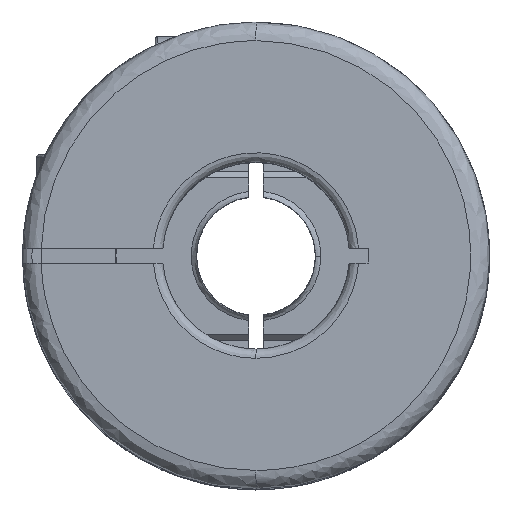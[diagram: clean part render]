
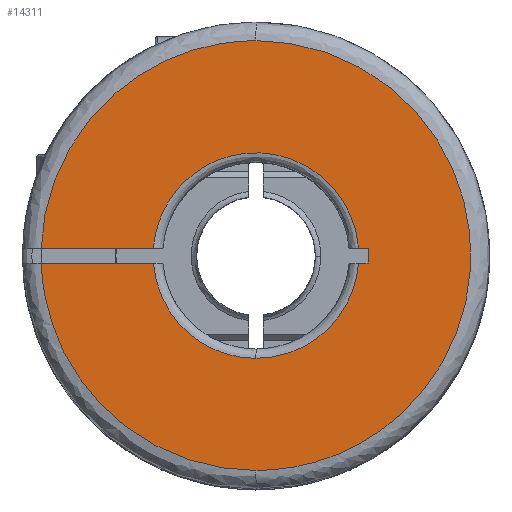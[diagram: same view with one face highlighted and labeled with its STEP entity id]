
A CAD part, top view. The second image highlights one B-rep face of the part: STEP entity #14311.
In plain terms, the highlighted planar face has unit normal (0, 0, 1).
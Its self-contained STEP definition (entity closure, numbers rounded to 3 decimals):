
#5171 = VERTEX_POINT ( 'NONE', #13982 ) ;
#7745 = VERTEX_POINT ( 'NONE', #15339 ) ;
#7747 = EDGE_CURVE ( 'NONE', #7745, #15570, #15337, .T. ) ;
#7769 = EDGE_CURVE ( 'NONE', #7772, #7745, #15399, .T. ) ;
#7772 = VERTEX_POINT ( 'NONE', #15393 ) ;
#8159 = EDGE_CURVE ( 'NONE', #5171, #7772, #17581, .T. ) ;
#9236 = CARTESIAN_POINT ( 'NONE',  ( 1.121, -3.505, 21.752 ) ) ;
#9237 = CARTESIAN_POINT ( 'NONE',  ( -1.916, -3.505, 21.752 ) ) ;
#9238 = CARTESIAN_POINT ( 'NONE',  ( -4.143, -1.438, 21.752 ) ) ;
#9239 = CARTESIAN_POINT ( 'NONE',  ( -4.365, 1.595, 21.752 ) ) ;
#9240 =( BOUNDED_CURVE ( )  B_SPLINE_CURVE ( 3, ( #9239, #9238, #9237, #9236 ),
 .UNSPECIFIED., .F., .T. ) 
 B_SPLINE_CURVE_WITH_KNOTS ( ( 4, 4 ),
 ( 0., 1. ),
 .UNSPECIFIED. ) 
 CURVE ( )  GEOMETRIC_REPRESENTATION_ITEM ( )  RATIONAL_B_SPLINE_CURVE ( ( 0.953, 0.784, 0.785, 0.957 ) ) 
 REPRESENTATION_ITEM ( '' )  );
#9241 = CARTESIAN_POINT ( 'NONE',  ( 1.121, 13.495, 21.752 ) ) ;
#9242 = CARTESIAN_POINT ( 'NONE',  ( -5.425, 13.495, 21.752 ) ) ;
#9243 = CARTESIAN_POINT ( 'NONE',  ( -10.144, 8.95, 21.752 ) ) ;
#9244 = CARTESIAN_POINT ( 'NONE',  ( -10.372, 2.395, 21.752 ) ) ;
#9245 =( BOUNDED_CURVE ( )  B_SPLINE_CURVE ( 3, ( #9244, #9243, #9242, #9241 ),
 .UNSPECIFIED., .F., .T. ) 
 B_SPLINE_CURVE_WITH_KNOTS ( ( 4, 4 ),
 ( 0., 1. ),
 .UNSPECIFIED. ) 
 CURVE ( )  GEOMETRIC_REPRESENTATION_ITEM ( )  RATIONAL_B_SPLINE_CURVE ( ( 0.952, 0.775, 0.776, 0.957 ) ) 
 REPRESENTATION_ITEM ( '' )  );
#9266 = CARTESIAN_POINT ( 'NONE',  ( -4.365, 1.595, 21.752 ) ) ;
#9277 = CARTESIAN_POINT ( 'NONE',  ( -10.372, 2.395, 21.752 ) ) ;
#9329 = LINE ( 'NONE', #9388, #9387 ) ;
#9386 = DIRECTION ( 'NONE',  ( 1., 0., 0. ) ) ;
#9387 = VECTOR ( 'NONE', #9386, 1000. ) ;
#9388 = CARTESIAN_POINT ( 'NONE',  ( 1.124, 1.595, 21.752 ) ) ;
#9461 = CARTESIAN_POINT ( 'NONE',  ( -10.372, 1.595, 21.752 ) ) ;
#9467 = CARTESIAN_POINT ( 'NONE',  ( 1.121, 13.495, 21.752 ) ) ;
#9495 = CARTESIAN_POINT ( 'NONE',  ( -10.372, 1.595, 21.752 ) ) ;
#9496 = CARTESIAN_POINT ( 'NONE',  ( -10.144, -4.959, 21.752 ) ) ;
#9497 = CARTESIAN_POINT ( 'NONE',  ( -5.425, -9.505, 21.752 ) ) ;
#9498 = CARTESIAN_POINT ( 'NONE',  ( 1.121, -9.505, 21.752 ) ) ;
#9500 =( BOUNDED_CURVE ( )  B_SPLINE_CURVE ( 3, ( #9498, #9497, #9496, #9495 ),
 .UNSPECIFIED., .F., .F. ) 
 B_SPLINE_CURVE_WITH_KNOTS ( ( 4, 4 ),
 ( 0., 1. ),
 .UNSPECIFIED. ) 
 CURVE ( )  GEOMETRIC_REPRESENTATION_ITEM ( )  RATIONAL_B_SPLINE_CURVE ( ( 0.957, 0.776, 0.775, 0.952 ) ) 
 REPRESENTATION_ITEM ( '' )  );
#9503 = CARTESIAN_POINT ( 'NONE',  ( 1.121, -9.505, 21.752 ) ) ;
#9504 = CARTESIAN_POINT ( 'NONE',  ( 24.121, -9.505, 21.752 ) ) ;
#9505 = CARTESIAN_POINT ( 'NONE',  ( 24.121, 13.495, 21.752 ) ) ;
#9506 = CARTESIAN_POINT ( 'NONE',  ( 1.121, 13.495, 21.752 ) ) ;
#9507 =( BOUNDED_CURVE ( )  B_SPLINE_CURVE ( 3, ( #9506, #9505, #9504, #9503 ),
 .UNSPECIFIED., .F., .F. ) 
 B_SPLINE_CURVE_WITH_KNOTS ( ( 4, 4 ),
 ( 0., 1. ),
 .UNSPECIFIED. ) 
 CURVE ( )  GEOMETRIC_REPRESENTATION_ITEM ( )  RATIONAL_B_SPLINE_CURVE ( ( 0.957, 0.319, 0.319, 0.957 ) ) 
 REPRESENTATION_ITEM ( '' )  );
#9513 = CARTESIAN_POINT ( 'NONE',  ( 1.121, -9.505, 21.752 ) ) ;
#9541 = DIRECTION ( 'NONE',  ( 0., -1., 0. ) ) ;
#9542 = DIRECTION ( 'NONE',  ( 0., 0., -1. ) ) ;
#9543 = CARTESIAN_POINT ( 'NONE',  ( 12.759, 13.633, 21.752 ) ) ;
#9544 = AXIS2_PLACEMENT_3D ( 'NONE', #9543, #9542, #9541 ) ;
#9545 = PLANE ( 'NONE',  #9544 ) ;
#9546 = FACE_OUTER_BOUND ( 'NONE', #14306, .T. ) ;
#9584 = CARTESIAN_POINT ( 'NONE',  ( -4.365, 2.395, 21.752 ) ) ;
#9585 = CARTESIAN_POINT ( 'NONE',  ( -3.668, 11.948, 21.752 ) ) ;
#9586 = CARTESIAN_POINT ( 'NONE',  ( 5.91, 11.948, 21.752 ) ) ;
#9587 = CARTESIAN_POINT ( 'NONE',  ( 6.606, 2.395, 21.752 ) ) ;
#9588 =( BOUNDED_CURVE ( )  B_SPLINE_CURVE ( 3, ( #9587, #9586, #9585, #9584 ),
 .UNSPECIFIED., .F., .T. ) 
 B_SPLINE_CURVE_WITH_KNOTS ( ( 4, 4 ),
 ( 0., 1. ),
 .UNSPECIFIED. ) 
 CURVE ( )  GEOMETRIC_REPRESENTATION_ITEM ( )  RATIONAL_B_SPLINE_CURVE ( ( 0.941, 0.359, 0.359, 0.941 ) ) 
 REPRESENTATION_ITEM ( '' )  );
#9595 = DIRECTION ( 'NONE',  ( -1., 0., 0. ) ) ;
#9596 = VECTOR ( 'NONE', #9595, 1000. ) ;
#9597 = CARTESIAN_POINT ( 'NONE',  ( 1.124, 2.395, 21.752 ) ) ;
#9598 = LINE ( 'NONE', #9597, #9596 ) ;
#9604 = CARTESIAN_POINT ( 'NONE',  ( -4.365, 2.395, 21.752 ) ) ;
#9770 = CARTESIAN_POINT ( 'NONE',  ( 1.121, -3.505, 21.752 ) ) ;
#9772 = CARTESIAN_POINT ( 'NONE',  ( 6.606, 1.595, 21.752 ) ) ;
#9819 = CARTESIAN_POINT ( 'NONE',  ( 6.606, 1.595, 21.752 ) ) ;
#9820 = CARTESIAN_POINT ( 'NONE',  ( 6.385, -1.438, 21.752 ) ) ;
#9821 = CARTESIAN_POINT ( 'NONE',  ( 4.157, -3.505, 21.752 ) ) ;
#9822 = CARTESIAN_POINT ( 'NONE',  ( 1.121, -3.505, 21.752 ) ) ;
#9823 =( BOUNDED_CURVE ( )  B_SPLINE_CURVE ( 3, ( #9822, #9821, #9820, #9819 ),
 .UNSPECIFIED., .F., .T. ) 
 B_SPLINE_CURVE_WITH_KNOTS ( ( 4, 4 ),
 ( 0., 1. ),
 .UNSPECIFIED. ) 
 CURVE ( )  GEOMETRIC_REPRESENTATION_ITEM ( )  RATIONAL_B_SPLINE_CURVE ( ( 0.957, 0.785, 0.784, 0.953 ) ) 
 REPRESENTATION_ITEM ( '' )  );
#12840 = ORIENTED_EDGE ( 'NONE', *, *, #7747, .T. ) ;
#12841 = ORIENTED_EDGE ( 'NONE', *, *, #12852, .F. ) ;
#12848 = ORIENTED_EDGE ( 'NONE', *, *, #14845, .F. ) ;
#12852 = EDGE_CURVE ( 'NONE', #13736, #14294, #9245, .T. ) ;
#12853 = ORIENTED_EDGE ( 'NONE', *, *, #15585, .F. ) ;
#12856 = EDGE_CURVE ( 'NONE', #13054, #15572, #9240, .T. ) ;
#12857 = ORIENTED_EDGE ( 'NONE', *, *, #14784, .F. ) ;
#12862 = ORIENTED_EDGE ( 'NONE', *, *, #8159, .T. ) ;
#12863 = ORIENTED_EDGE ( 'NONE', *, *, #12856, .F. ) ;
#12864 = ORIENTED_EDGE ( 'NONE', *, *, #7769, .T. ) ;
#13054 = VERTEX_POINT ( 'NONE', #9266 ) ;
#13736 = VERTEX_POINT ( 'NONE', #9277 ) ;
#13831 = EDGE_CURVE ( 'NONE', #14300, #13054, #9329, .T. ) ;
#13972 = ORIENTED_EDGE ( 'NONE', *, *, #13831, .F. ) ;
#13982 = CARTESIAN_POINT ( 'NONE',  ( 6.606, 2.395, 21.752 ) ) ;
#14294 = VERTEX_POINT ( 'NONE', #9467 ) ;
#14300 = VERTEX_POINT ( 'NONE', #9461 ) ;
#14303 = VERTEX_POINT ( 'NONE', #9513 ) ;
#14304 = EDGE_CURVE ( 'NONE', #14294, #14303, #9507, .T. ) ;
#14305 = EDGE_CURVE ( 'NONE', #14303, #14300, #9500, .T. ) ;
#14306 = EDGE_LOOP ( 'NONE', ( #14309, #14307, #12841, #12857, #12848, #12862, #12864, #12840, #12853, #12863, #13972 ) ) ;
#14307 = ORIENTED_EDGE ( 'NONE', *, *, #14304, .F. ) ;
#14309 = ORIENTED_EDGE ( 'NONE', *, *, #14305, .F. ) ;
#14311 = ADVANCED_FACE ( 'NONE', ( #9546 ), #9545, .F. ) ;
#14705 = VERTEX_POINT ( 'NONE', #9604 ) ;
#14784 = EDGE_CURVE ( 'NONE', #14705, #13736, #9598, .T. ) ;
#14845 = EDGE_CURVE ( 'NONE', #5171, #14705, #9588, .T. ) ;
#15334 = DIRECTION ( 'NONE',  ( -1., 0., 0. ) ) ;
#15335 = VECTOR ( 'NONE', #15334, 1000. ) ;
#15336 = CARTESIAN_POINT ( 'NONE',  ( 6.613, 1.595, 21.752 ) ) ;
#15337 = LINE ( 'NONE', #15336, #15335 ) ;
#15339 = CARTESIAN_POINT ( 'NONE',  ( 7.121, 1.595, 21.752 ) ) ;
#15393 = CARTESIAN_POINT ( 'NONE',  ( 7.121, 2.395, 21.752 ) ) ;
#15395 = DIRECTION ( 'NONE',  ( 0., -1., 0. ) ) ;
#15397 = VECTOR ( 'NONE', #15395, 1000. ) ;
#15398 = CARTESIAN_POINT ( 'NONE',  ( 7.121, 1.995, 21.752 ) ) ;
#15399 = LINE ( 'NONE', #15398, #15397 ) ;
#15570 = VERTEX_POINT ( 'NONE', #9772 ) ;
#15572 = VERTEX_POINT ( 'NONE', #9770 ) ;
#15585 = EDGE_CURVE ( 'NONE', #15572, #15570, #9823, .T. ) ;
#17570 = DIRECTION ( 'NONE',  ( 1., 0., 0. ) ) ;
#17571 = VECTOR ( 'NONE', #17570, 1000. ) ;
#17572 = CARTESIAN_POINT ( 'NONE',  ( 6.613, 2.395, 21.752 ) ) ;
#17581 = LINE ( 'NONE', #17572, #17571 ) ;
